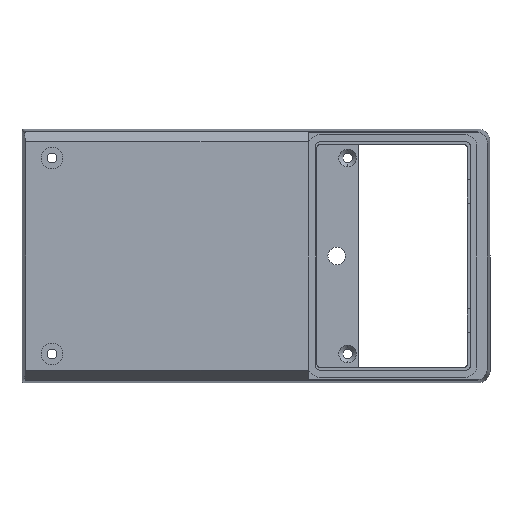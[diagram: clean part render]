
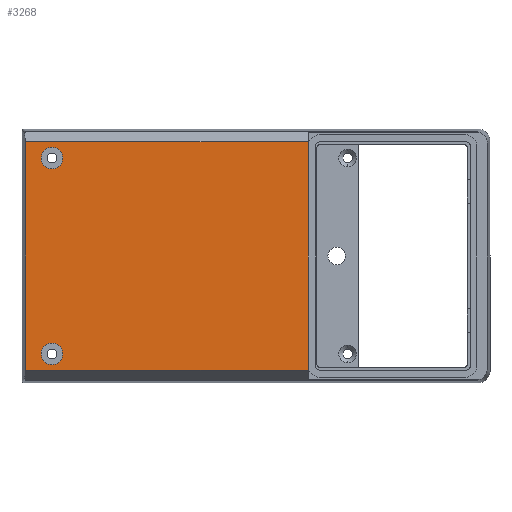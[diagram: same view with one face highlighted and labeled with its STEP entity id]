
A CAD part, front view. The second image highlights one B-rep face of the part: STEP entity #3268.
In plain terms, the highlighted planar face has unit normal (0, -1, 0).
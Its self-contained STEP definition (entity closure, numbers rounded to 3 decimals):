
#66 = EDGE_CURVE ( 'NONE', #4027, #515, #3815, .T. ) ;
#81 = CARTESIAN_POINT ( 'NONE',  ( -52.1, -16.5, 27.75 ) ) ;
#89 = EDGE_CURVE ( 'NONE', #729, #4647, #3830, .T. ) ;
#108 = DIRECTION ( 'NONE',  ( 1., 0., 0. ) ) ;
#384 = DIRECTION ( 'NONE',  ( 0., 0., -1. ) ) ;
#515 = VERTEX_POINT ( 'NONE', #1608 ) ;
#519 = CARTESIAN_POINT ( 'NONE',  ( -52.1, -16.5, 22.25 ) ) ;
#537 = DIRECTION ( 'NONE',  ( 0., -1., 0. ) ) ;
#729 = VERTEX_POINT ( 'NONE', #81 ) ;
#759 = EDGE_CURVE ( 'NONE', #3289, #1002, #2269, .T. ) ;
#1002 = VERTEX_POINT ( 'NONE', #4525 ) ;
#1027 = EDGE_CURVE ( 'NONE', #1410, #3976, #1690, .T. ) ;
#1146 = EDGE_CURVE ( 'NONE', #515, #4027, #1416, .T. ) ;
#1155 = EDGE_CURVE ( 'NONE', #4647, #729, #1422, .T. ) ;
#1157 = EDGE_CURVE ( 'NONE', #3289, #3976, #1376, .T. ) ;
#1159 = DIRECTION ( 'NONE',  ( 0., 0., 1. ) ) ;
#1165 = EDGE_CURVE ( 'NONE', #1002, #1410, #1332, .T. ) ;
#1218 = CARTESIAN_POINT ( 'NONE',  ( -52.1, -16.5, 25. ) ) ;
#1244 = CARTESIAN_POINT ( 'NONE',  ( 13.35, -16.5, 37.5 ) ) ;
#1325 = DIRECTION ( 'NONE',  ( 0., 0., 1. ) ) ;
#1332 = LINE ( 'NONE', #2241, #1393 ) ;
#1356 = DIRECTION ( 'NONE',  ( 0., -1., 0. ) ) ;
#1359 = VECTOR ( 'NONE', #108, 1000. ) ;
#1376 = LINE ( 'NONE', #2535, #1359 ) ;
#1393 = VECTOR ( 'NONE', #4729, 1000. ) ;
#1410 = VERTEX_POINT ( 'NONE', #3245 ) ;
#1412 = CARTESIAN_POINT ( 'NONE',  ( -52.1, -16.5, 25. ) ) ;
#1416 = CIRCLE ( 'NONE', #3628, 2.75 ) ;
#1422 = CIRCLE ( 'NONE', #3623, 2.75 ) ;
#1588 = VECTOR ( 'NONE', #384, 1000. ) ;
#1608 = CARTESIAN_POINT ( 'NONE',  ( -52.1, -16.5, -27.75 ) ) ;
#1690 = LINE ( 'NONE', #1244, #1588 ) ;
#1830 = DIRECTION ( 'NONE',  ( 0., 0., -1. ) ) ;
#2022 = CARTESIAN_POINT ( 'NONE',  ( -58.841, -16.5, 0. ) ) ;
#2097 = AXIS2_PLACEMENT_3D ( 'NONE', #3205, #4252, #1325 ) ;
#2131 = FACE_OUTER_BOUND ( 'NONE', #4844, .T. ) ;
#2151 = CARTESIAN_POINT ( 'NONE',  ( -58.841, -16.5, -29.15 ) ) ;
#2239 = VECTOR ( 'NONE', #1159, 1000. ) ;
#2241 = CARTESIAN_POINT ( 'NONE',  ( -59.85, -16.5, 29.15 ) ) ;
#2269 = LINE ( 'NONE', #2022, #2239 ) ;
#2535 = CARTESIAN_POINT ( 'NONE',  ( -59.85, -16.5, -29.15 ) ) ;
#2740 = ORIENTED_EDGE ( 'NONE', *, *, #1146, .F. ) ;
#2747 = ORIENTED_EDGE ( 'NONE', *, *, #1155, .F. ) ;
#2753 = ORIENTED_EDGE ( 'NONE', *, *, #66, .F. ) ;
#2781 = ORIENTED_EDGE ( 'NONE', *, *, #89, .F. ) ;
#2790 = ORIENTED_EDGE ( 'NONE', *, *, #1157, .T. ) ;
#2800 = ORIENTED_EDGE ( 'NONE', *, *, #1027, .F. ) ;
#2824 = ORIENTED_EDGE ( 'NONE', *, *, #1165, .F. ) ;
#2834 = CARTESIAN_POINT ( 'NONE',  ( -52.1, -16.5, -25. ) ) ;
#2862 = ORIENTED_EDGE ( 'NONE', *, *, #759, .F. ) ;
#2881 = CARTESIAN_POINT ( 'NONE',  ( -52.1, -16.5, -25. ) ) ;
#3135 = FACE_BOUND ( 'NONE', #4627, .T. ) ;
#3205 = CARTESIAN_POINT ( 'NONE',  ( 0., -16.5, 0. ) ) ;
#3245 = CARTESIAN_POINT ( 'NONE',  ( 13.35, -16.5, 29.15 ) ) ;
#3268 = ADVANCED_FACE ( 'NONE', ( #4736, #3135, #2131 ), #3568, .F. ) ;
#3270 = DIRECTION ( 'NONE',  ( 0., 0., -1. ) ) ;
#3289 = VERTEX_POINT ( 'NONE', #2151 ) ;
#3568 = PLANE ( 'NONE',  #2097 ) ;
#3623 = AXIS2_PLACEMENT_3D ( 'NONE', #1412, #3971, #1830 ) ;
#3628 = AXIS2_PLACEMENT_3D ( 'NONE', #2881, #537, #3270 ) ;
#3815 = CIRCLE ( 'NONE', #4574, 2.75 ) ;
#3830 = CIRCLE ( 'NONE', #4556, 2.75 ) ;
#3927 = DIRECTION ( 'NONE',  ( 0., 0., -1. ) ) ;
#3942 = CARTESIAN_POINT ( 'NONE',  ( -52.1, -16.5, -22.25 ) ) ;
#3971 = DIRECTION ( 'NONE',  ( 0., -1., 0. ) ) ;
#3976 = VERTEX_POINT ( 'NONE', #4276 ) ;
#4027 = VERTEX_POINT ( 'NONE', #3942 ) ;
#4252 = DIRECTION ( 'NONE',  ( 0., 1., 0. ) ) ;
#4276 = CARTESIAN_POINT ( 'NONE',  ( 13.35, -16.5, -29.15 ) ) ;
#4364 = DIRECTION ( 'NONE',  ( 0., -1., 0. ) ) ;
#4525 = CARTESIAN_POINT ( 'NONE',  ( -58.841, -16.5, 29.15 ) ) ;
#4556 = AXIS2_PLACEMENT_3D ( 'NONE', #1218, #1356, #4795 ) ;
#4574 = AXIS2_PLACEMENT_3D ( 'NONE', #2834, #4364, #3927 ) ;
#4627 = EDGE_LOOP ( 'NONE', ( #2747, #2781 ) ) ;
#4647 = VERTEX_POINT ( 'NONE', #519 ) ;
#4729 = DIRECTION ( 'NONE',  ( 1., 0., 0. ) ) ;
#4736 = FACE_BOUND ( 'NONE', #4740, .T. ) ;
#4740 = EDGE_LOOP ( 'NONE', ( #2740, #2753 ) ) ;
#4795 = DIRECTION ( 'NONE',  ( 0., 0., -1. ) ) ;
#4844 = EDGE_LOOP ( 'NONE', ( #2790, #2800, #2824, #2862 ) ) ;
